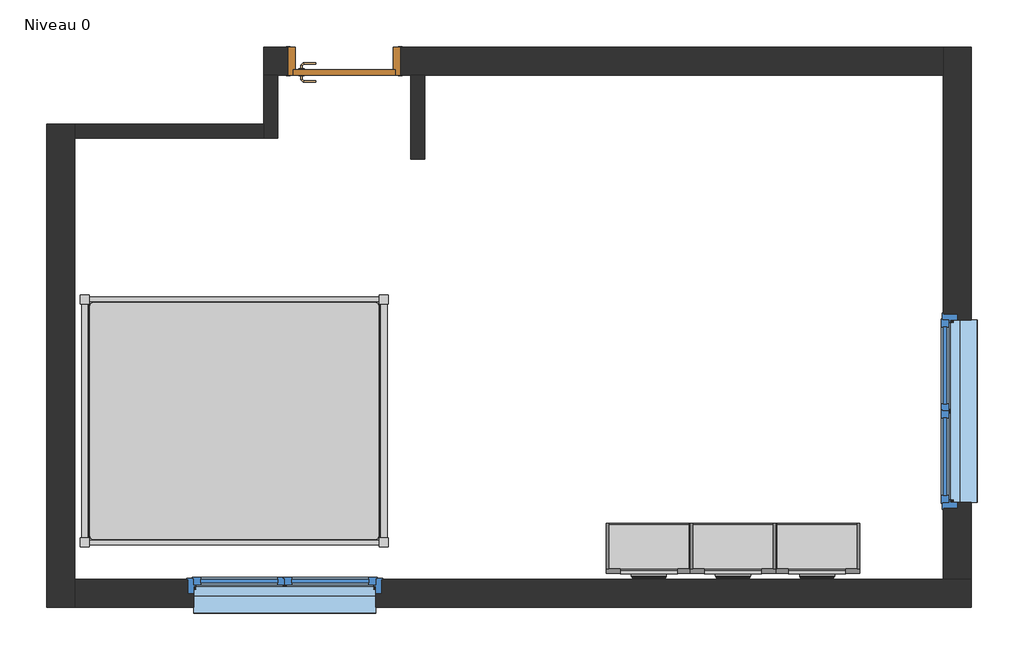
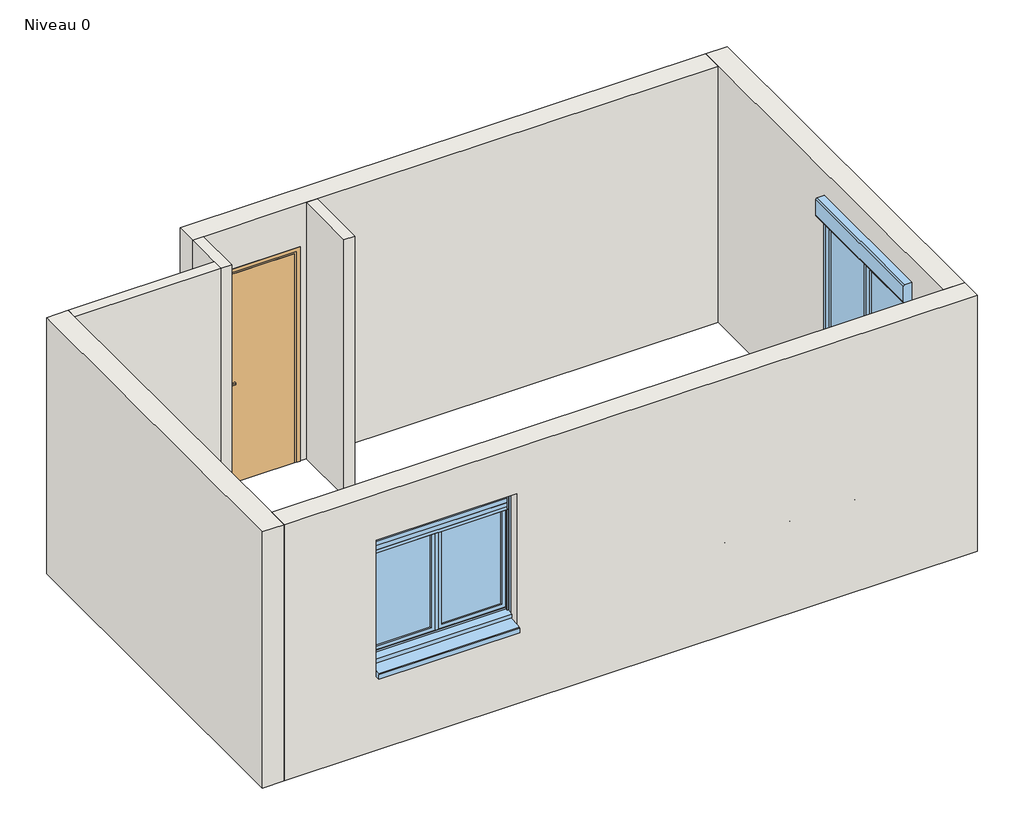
# One storey, incomplete: 7 walls, 4 furniture elements, 2 windows, 1 door.
"""IFC4 building model written with IfcOpenShell, lengths in millimetres."""

from ifc_helpers import new_model, si_unit, origin, origin_with_axes, place, context, project, spatial, polyline, outline, extrude, faceted_brep, transform, mapped, element, save
from components import int_simple_pp_0_73m_x_2_04m_83361101, furniture_610_x_360_x_1960_mm_024869ef, lit_double_03_1800mm_x_2200mm_80221213, window_125_x_130_cm_2059b39f, window_125_x_130_cm_83626f77

model = new_model("IFC4")

# Units and contexts
model_context = context("Model", 3, world=origin())
ifc_project = project(units=[si_unit("LENGTHUNIT", "METRE", prefix="MILLI")], contexts=[model_context])

# Site, building, storey
site = spatial("IfcSite", under=ifc_project)
building = spatial("IfcBuilding", under=site)
storey = spatial("IfcBuildingStorey", under=building, Name="Niveau 0", Elevation=0.0)

# Door
placement = place(None, origin())
int_simple_pp_0_73m_x_2_04m_shape = int_simple_pp_0_73m_x_2_04m_83361101(model_context)
element("IfcDoor", 1, ObjectType="Int. Simple : PP (0.73m x 2.04m)", at=placement, inside=storey, context=model_context, shape_type="MappedRepresentation", body=[
    mapped(int_simple_pp_0_73m_x_2_04m_shape, transform((-7933.0810046, -1080.9494708, 0.0), x_axis=(1.0, 0.0, 0.0), y_axis=(0.0, 1.0, 0.0), z_axis=(0.0, 0.0, 1.0))),
])

# Furniture
furniture_610_x_360_x_1960_mm_shape = furniture_610_x_360_x_1960_mm_024869ef(model_context)
element("IfcFurniture", 2, ObjectType="Bibliothèque - Type adolescent : 610 x 360 x 1960 mm", at=placement, inside=storey, context=model_context, shape_type="MappedRepresentation", body=[
    mapped(furniture_610_x_360_x_1960_mm_shape, transform((-4593.0810046, -4380.9494708, 0.0), x_axis=(1.0, 0.0, 0.0), y_axis=(0.0, 1.0, 0.0), z_axis=(0.0, 0.0, 1.0))),
])
element("IfcFurniture", 3, ObjectType="Bibliothèque - Type adolescent : 610 x 360 x 1960 mm", at=placement, inside=storey, context=model_context, shape_type="MappedRepresentation", body=[
    mapped(furniture_610_x_360_x_1960_mm_shape, transform((-5193.0810046, -4380.9494708, 0.0), x_axis=(1.0, 0.0, 0.0), y_axis=(0.0, 1.0, 0.0), z_axis=(0.0, 0.0, 1.0))),
])
element("IfcFurniture", 4, ObjectType="Bibliothèque - Type adolescent : 610 x 360 x 1960 mm", at=placement, inside=storey, context=model_context, shape_type="MappedRepresentation", body=[
    mapped(furniture_610_x_360_x_1960_mm_shape, transform((-5793.0810046, -4380.9494708, 0.0), x_axis=(1.0, 0.0, 0.0), y_axis=(0.0, 1.0, 0.0), z_axis=(0.0, 0.0, 1.0))),
])
lit_double_03_1800mm_x_2200mm_shape = lit_double_03_1800mm_x_2200mm_80221213(model_context)
element("IfcFurniture", 5, ObjectType="Lit double - 03 : 1800mm x 2200mm", at=placement, inside=storey, context=model_context, shape_type="MappedRepresentation", body=[
    mapped(lit_double_03_1800mm_x_2200mm_shape, transform((-9853.0810046, -3650.9494708, 0.0), x_axis=(0.0, -1.0, 0.0), y_axis=(1.0, 0.0, 0.0), z_axis=(0.0, 0.0, 1.0))),
])

# Walls
element("IfcWall", 6, ObjectType="Générique - Ext. 200 mm", at=placement, inside=storey, context=model_context, shape_type="Brep", body=[
    faceted_brep([(-10093.0810046, -1530.9494708, 0.0), (-10093.0810046, -4980.9494708, 0.0), (-10093.0810046, -4980.9494708, 2500.0), (-10093.0810046, -1530.9494708, 2500.0), (-9893.0810046, -1530.9494708, 0.0), (-9893.0810046, -1530.9494708, 2500.0), (-9893.0810046, -1630.9494708, 2500.0), (-9893.0810046, -4780.9494708, 2500.0), (-9893.0810046, -4980.9494708, 2500.0), (-9893.0810046, -4980.9494708, 0.0), (-9893.0810046, -4780.9494708, 0.0), (-9893.0810046, -1630.9494708, 0.0)], [[[0, 1, 2, 3]], [[4, 5, 6, 7, 8, 9, 10, 11]], [[1, 0, 4, 11, 10, 9]], [[3, 2, 8, 7, 6, 5]], [[2, 1, 9, 8]], [[0, 3, 5, 4]]]),
])
element("IfcWall", 7, ObjectType="Générique - Ext. 200 mm", at=placement, inside=storey, context=model_context, shape_type="Brep", body=[
    faceted_brep([(-9893.0810046, -4980.9494708, 0.0), (-3493.0810046, -4980.9494708, 0.0), (-3493.0810046, -4980.9494708, 2500.0), (-9893.0810046, -4980.9494708, 2500.0), (-9043.0810046, -4980.9494708, 2050.0), (-7743.0810046, -4980.9494708, 2050.0), (-7743.0810046, -4980.9494708, 720.0), (-9043.0810046, -4980.9494708, 720.0), (-9893.0810046, -4780.9494708, 0.0), (-9893.0810046, -4780.9494708, 2500.0), (-3693.0810046, -4780.9494708, 2500.0), (-3493.0810046, -4780.9494708, 2500.0), (-3493.0810046, -4780.9494708, 0.0), (-3693.0810046, -4780.9494708, 0.0), (-9083.0810046, -4780.9494708, 800.0), (-7703.0810046, -4780.9494708, 800.0), (-7703.0810046, -4780.9494708, 2090.0), (-7693.0810046, -4780.9494708, 2090.0), (-7693.0810046, -4780.9494708, 2270.0), (-9093.0810046, -4780.9494708, 2270.0), (-9093.0810046, -4780.9494708, 2090.0), (-9083.0810046, -4780.9494708, 2090.0), (-9043.0810046, -4880.9494708, 2050.0), (-7743.0810046, -4880.9494708, 2050.0), (-9043.0810046, -4880.9494708, 720.0), (-9043.0810046, -4845.9494708, 755.0), (-9043.0810046, -4845.9494708, 800.0), (-9043.0810046, -4880.9494708, 800.0), (-7743.0810046, -4845.9494708, 800.0), (-7743.0810046, -4880.9494708, 800.0), (-7703.0810046, -4880.9494708, 800.0), (-9083.0810046, -4880.9494708, 800.0), (-7743.0810046, -4845.9494708, 755.0), (-7743.0810046, -4880.9494708, 720.0), (-9083.0810046, -4880.9494708, 2090.0), (-9093.0810046, -4880.9494708, 2090.0), (-9093.0810046, -4880.9494708, 2270.0), (-7693.0810046, -4880.9494708, 2270.0), (-7693.0810046, -4880.9494708, 2090.0), (-7703.0810046, -4880.9494708, 2090.0)], [[[0, 1, 2, 3], [4, 5, 6, 7]], [[8, 9, 10, 11, 12, 13], [14, 15, 16, 17, 18, 19, 20, 21]], [[1, 0, 8, 13, 12]], [[3, 2, 11, 10, 9]], [[0, 3, 9, 8]], [[2, 1, 12, 11]], [[4, 22, 23, 5]], [[4, 7, 24, 25, 26, 27, 22]], [[27, 26, 28, 29, 30, 15, 14, 31]], [[23, 29, 28, 32, 33, 6, 5]], [[31, 14, 21, 34]], [[31, 34, 35, 36, 37, 38, 39, 30, 29, 23, 22, 27]], [[39, 16, 15, 30]], [[24, 33, 32, 25]], [[25, 32, 28, 26]], [[24, 7, 6, 33]], [[35, 20, 19, 36]], [[37, 18, 17, 38]], [[36, 19, 18, 37]], [[34, 21, 20, 35]], [[38, 17, 16, 39]]]),
])
element("IfcWall", 8, ObjectType="Générique - Ext. 200 mm", at=placement, inside=storey, context=model_context, shape_type="Brep", body=[
    faceted_brep([(-3493.0810046, -4780.9494708, 0.0), (-3493.0810046, -980.9494708, 0.0), (-3493.0810046, -980.9494708, 2500.0), (-3493.0810046, -4780.9494708, 2500.0), (-3493.0810046, -4230.9494708, 2050.0), (-3493.0810046, -2930.9494708, 2050.0), (-3493.0810046, -2930.9494708, 720.0), (-3493.0810046, -4230.9494708, 720.0), (-3693.0810046, -980.9494708, 0.0), (-3693.0810046, -1180.9494708, 0.0), (-3693.0810046, -4780.9494708, 0.0), (-3693.0810046, -4780.9494708, 2500.0), (-3693.0810046, -1180.9494708, 2500.0), (-3693.0810046, -980.9494708, 2500.0), (-3693.0810046, -4270.9494708, 800.0), (-3693.0810046, -2890.9494708, 800.0), (-3693.0810046, -2890.9494708, 2090.0), (-3693.0810046, -2880.9494708, 2090.0), (-3693.0810046, -2880.9494708, 2270.0), (-3693.0810046, -4280.9494708, 2270.0), (-3693.0810046, -4280.9494708, 2090.0), (-3693.0810046, -4270.9494708, 2090.0), (-3593.0810046, -4230.9494708, 2050.0), (-3593.0810046, -2930.9494708, 2050.0), (-3593.0810046, -2930.9494708, 800.0), (-3628.0810046, -2930.9494708, 800.0), (-3628.0810046, -2930.9494708, 755.0), (-3593.0810046, -2930.9494708, 720.0), (-3593.0810046, -2890.9494708, 800.0), (-3593.0810046, -4270.9494708, 800.0), (-3593.0810046, -4230.9494708, 800.0), (-3628.0810046, -4230.9494708, 800.0), (-3593.0810046, -4230.9494708, 720.0), (-3628.0810046, -4230.9494708, 755.0), (-3593.0810046, -2890.9494708, 2090.0), (-3593.0810046, -4270.9494708, 2090.0), (-3593.0810046, -4280.9494708, 2090.0), (-3593.0810046, -4280.9494708, 2270.0), (-3593.0810046, -2880.9494708, 2270.0), (-3593.0810046, -2880.9494708, 2090.0)], [[[0, 1, 2, 3], [4, 5, 6, 7]], [[8, 9, 10, 11, 12, 13], [14, 15, 16, 17, 18, 19, 20, 21]], [[1, 0, 10, 9, 8]], [[3, 2, 13, 12, 11]], [[0, 3, 11, 10]], [[2, 1, 8, 13]], [[22, 23, 5, 4]], [[23, 24, 25, 26, 27, 6, 5]], [[25, 24, 28, 15, 14, 29, 30, 31]], [[31, 30, 22, 4, 7, 32, 33]], [[28, 34, 16, 15]], [[23, 22, 30, 29, 35, 36, 37, 38, 39, 34, 28, 24]], [[35, 29, 14, 21]], [[39, 38, 18, 17]], [[37, 36, 20, 19]], [[38, 37, 19, 18]], [[36, 35, 21, 20]], [[34, 39, 17, 16]], [[27, 26, 33, 32]], [[26, 25, 31, 33]], [[27, 32, 7, 6]]]),
])
element("IfcWall", 9, ObjectType="Générique - Ext. 200 mm", at=placement, inside=storey, context=model_context, shape_type="Brep", body=[
    faceted_brep([(-8543.0810046, -980.9494708, 2500.0), (-3693.0810046, -980.9494708, 2500.0), (-3693.0810046, -980.9494708, 0.0), (-7568.0810046, -980.9494708, 0.0), (-7568.0810046, -980.9494708, 2075.0), (-8368.0810046, -980.9494708, 2075.0), (-8368.0810046, -980.9494708, 0.0), (-8543.0810046, -980.9494708, 0.0), (-3693.0810046, -1180.9494708, 2500.0), (-7393.0810046, -1180.9494708, 2500.0), (-7493.0810046, -1180.9494708, 2500.0), (-8443.0810046, -1180.9494708, 2500.0), (-8543.0810046, -1180.9494708, 2500.0), (-8543.0810046, -1180.9494708, 0.0), (-8443.0810046, -1180.9494708, 0.0), (-8368.0810046, -1180.9494708, 0.0), (-8368.0810046, -1180.9494708, 2075.0), (-7568.0810046, -1180.9494708, 2075.0), (-7568.0810046, -1180.9494708, 0.0), (-7493.0810046, -1180.9494708, 0.0), (-7393.0810046, -1180.9494708, 0.0), (-3693.0810046, -1180.9494708, 0.0)], [[[0, 1, 2, 3, 4, 5, 6, 7]], [[8, 9, 10, 11, 12, 13, 14, 15, 16, 17, 18, 19, 20, 21]], [[2, 21, 20, 19, 18, 3]], [[13, 7, 6, 15, 14]], [[1, 0, 12, 11, 10, 9, 8]], [[2, 1, 8, 21]], [[0, 7, 13, 12]], [[17, 4, 3, 18]], [[4, 17, 16, 5]], [[5, 16, 15, 6]]]),
])
element("IfcWall", 10, ObjectType="Int. Plâtre 100 mm", at=placement, inside=storey, context=model_context, shape_type="Brep", body=[
    faceted_brep([(-8543.0810046, -1180.9494708, 0.0), (-8543.0810046, -1530.9494708, 0.0), (-8543.0810046, -1630.9494708, 0.0), (-8543.0810046, -1630.9494708, 2500.0), (-8543.0810046, -1530.9494708, 2500.0), (-8543.0810046, -1180.9494708, 2500.0), (-8443.0810046, -1180.9494708, 0.0), (-8443.0810046, -1180.9494708, 2500.0), (-8443.0810046, -1630.9494708, 2500.0), (-8443.0810046, -1630.9494708, 0.0)], [[[0, 1, 2, 3, 4, 5]], [[6, 7, 8, 9]], [[2, 1, 0, 6, 9]], [[5, 4, 3, 8, 7]], [[0, 5, 7, 6]], [[3, 2, 9, 8]]]),
])
element("IfcWall", 11, ObjectType="Int. Plâtre 100 mm", at=placement, inside=storey, context=model_context, shape_type="SweptSolid", body=[
    extrude(outline(polyline([(-9893.0810046, -1530.9494708), (-8543.0810046, -1530.9494708), (-8543.0810046, -1630.9494708), (-9893.0810046, -1630.9494708), (-9893.0810046, -1530.9494708)])), origin_with_axes(), (0.0, 0.0, 1.0), 2500.0),
])
element("IfcWall", 12, ObjectType="Int. Plâtre 100 mm", at=placement, inside=storey, context=model_context, shape_type="SweptSolid", body=[
    extrude(outline(polyline([(-7493.0810046, -1780.9494708), (-7493.0810046, -1180.9494708), (-7393.0810046, -1180.9494708), (-7393.0810046, -1780.9494708), (-7493.0810046, -1780.9494708)])), origin_with_axes(), (0.0, 0.0, 1.0), 2500.0),
])

# Windows
window_125_x_130_cm_shape = window_125_x_130_cm_2059b39f(model_context)
element("IfcWindow", 13, ObjectType="VR-2 Vantaux : 125 x 130 cm", at=placement, inside=storey, context=model_context, shape_type="MappedRepresentation", body=[
    mapped(window_125_x_130_cm_shape, transform((-3593.0810046, -3580.9494708, 0.0), x_axis=(0.0, -1.0, 0.0), y_axis=(1.0, 0.0, 0.0), z_axis=(0.0, 0.0, 1.0))),
])
window_125_x_130_cm_2_shape = window_125_x_130_cm_83626f77(model_context)
element("IfcWindow", 14, ObjectType="VR-2 Vantaux : 125 x 130 cm", at=placement, inside=storey, context=model_context, shape_type="MappedRepresentation", body=[
    mapped(window_125_x_130_cm_2_shape, transform((-8393.0810046, -4880.9494708, 0.0), x_axis=(1.0, 0.0, 0.0), y_axis=(0.0, 1.0, 0.0), z_axis=(0.0, 0.0, 1.0))),
])

save(model, "model.ifc")
